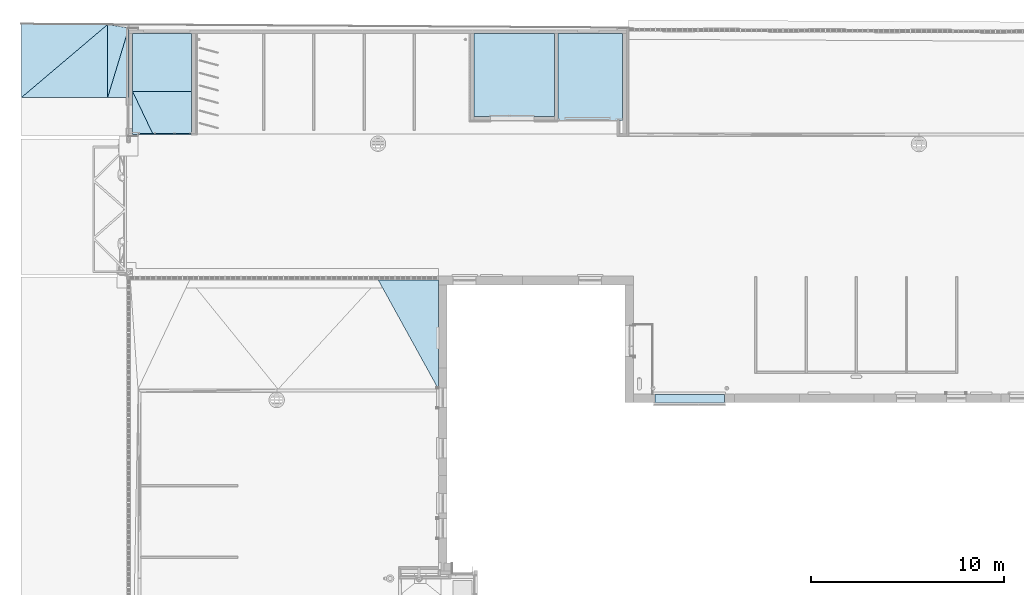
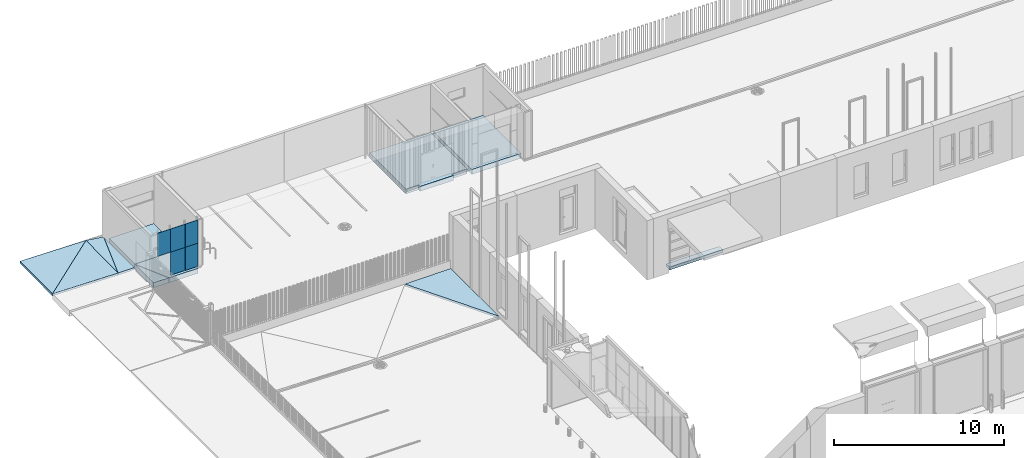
# One storey, part 10 of 77: 11 slabs, 5 plates, 4 elements without a shape of their own.
"""IFC2X3 building model written with IfcOpenShell, lengths in millimetres."""

from ifc_helpers import new_model, entity, si_unit, converted_unit, derived_unit, direction, frame, frame_2d, origin, place, context, subcontext, project, spatial, polyline, rectangle, outline, extrude, clip, halfspace, faceted_brep, source, transform, mapped, material, material_list, layer, layer_set, layer_usage, type_object, type_shapes, element, aggregate, save


model = new_model("IFC2X3")

# Units and contexts
model_context = context("Model", 3, precision=0.01, world=origin(), true_north=direction((6.12303176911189e-17, 1.0)))
body_context = subcontext(model_context, "Body", "Model", "MODEL_VIEW")
ifc_project = project(units=[si_unit("LENGTHUNIT", "METRE", prefix="MILLI"), si_unit("AREAUNIT", "SQUARE_METRE"), si_unit("VOLUMEUNIT", "CUBIC_METRE"), converted_unit("PLANEANGLEUNIT", "DEGREE", entity("IfcRatioMeasure", 0.0174532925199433), si_unit("PLANEANGLEUNIT", "RADIAN"), dimensions=[0, 0, 0, 0, 0, 0, 0]), si_unit("MASSUNIT", "GRAM", prefix="KILO"), derived_unit("MASSDENSITYUNIT", [(si_unit("MASSUNIT", "GRAM", prefix="KILO"), 1), (si_unit("LENGTHUNIT", "METRE"), -3)]), si_unit("TIMEUNIT", "SECOND"), si_unit("FREQUENCYUNIT", "HERTZ"), si_unit("THERMODYNAMICTEMPERATUREUNIT", "DEGREE_CELSIUS"), derived_unit("THERMALTRANSMITTANCEUNIT", [(si_unit("MASSUNIT", "GRAM", prefix="KILO"), 1), (si_unit("THERMODYNAMICTEMPERATUREUNIT", "KELVIN"), -1), (si_unit("TIMEUNIT", "SECOND"), -3)]), derived_unit("VOLUMETRICFLOWRATEUNIT", [(si_unit("LENGTHUNIT", "METRE"), 3), (si_unit("TIMEUNIT", "SECOND"), -1)]), si_unit("ELECTRICCURRENTUNIT", "AMPERE"), si_unit("ELECTRICVOLTAGEUNIT", "VOLT"), si_unit("POWERUNIT", "WATT"), si_unit("FORCEUNIT", "NEWTON", prefix="KILO"), si_unit("ILLUMINANCEUNIT", "LUX"), si_unit("LUMINOUSFLUXUNIT", "LUMEN"), si_unit("LUMINOUSINTENSITYUNIT", "CANDELA"), derived_unit("USERDEFINED", [(si_unit("MASSUNIT", "GRAM", prefix="KILO"), -1), (si_unit("LENGTHUNIT", "METRE"), -2), (si_unit("TIMEUNIT", "SECOND"), 3), (si_unit("LUMINOUSFLUXUNIT", "LUMEN"), 1)]), derived_unit("LINEARVELOCITYUNIT", [(si_unit("LENGTHUNIT", "METRE"), 1), (si_unit("TIMEUNIT", "SECOND"), -1)]), si_unit("PRESSUREUNIT", "PASCAL"), derived_unit("USERDEFINED", [(si_unit("LENGTHUNIT", "METRE"), -2), (si_unit("MASSUNIT", "GRAM", prefix="KILO"), 1), (si_unit("TIMEUNIT", "SECOND"), -2)])], contexts=[model_context])

# Site, building, storey
site_placement = place(None, origin())
site = spatial("IfcSite", under=ifc_project, at=site_placement, Name="Default", CompositionType="ELEMENT")
building_placement = place(site_placement, origin())
building = spatial("IfcBuilding", under=site, at=building_placement, CompositionType="ELEMENT")
storey_placement = place(building_placement, origin())
storey = spatial("IfcBuildingStorey", under=building, at=storey_placement, Name="1. KORRUS", CompositionType="ELEMENT", Elevation=0.0)

# Curtain wall, plates
curtain_wall_type = type_object("IfcCurtainWallType", Name="Curtain Wall:võresein VP1", PredefinedType="NOTDEFINED")
curtain_wall_placement = place(storey_placement, origin())
curtain_wall = element("IfcCurtainWall", 1, at=curtain_wall_placement, inside=storey, type_object=curtain_wall_type, Name="Curtain Wall:võresein VP1", ObjectType="Curtain Wall:võresein VP1")
ifc_material_1 = material(Name="venitatud lehtvõrk R1,5/2,5L, must")
ifc_material_2 = material(Name="teras, võrkpaneeli raam")
ifc_material_list_1 = material_list([ifc_material_1, ifc_material_2])
ifc_material_list_2 = material_list([ifc_material_1, ifc_material_2])
plate_type_1 = type_object("IfcPlateType", Name="võrkpaneel", PredefinedType="CURTAIN_PANEL", material=ifc_material_list_2)
shared_shape_1 = source(origin(), body_context, "Body", "Brep", [
    faceted_brep([(873.0, 8.0, 1655.5), (873.0, 8.0, 2.0), (2.0, 8.0, 2.0), (2.0, 8.0, 1655.5), (873.0, 2.0, 1655.5), (2.0, 2.0, 1655.5), (2.0, 2.0, 2.0), (873.0, 2.0, 2.0)], [[[0, 1, 2, 3]], [[4, 5, 6, 7]], [[3, 5, 4, 0]], [[2, 6, 5, 3]], [[1, 7, 6, 2]], [[0, 4, 7, 1]]]),
    faceted_brep([(30.0, 2.0, 30.0), (30.0, 2.0, 1625.0), (30.0, 0.0, 1625.0), (30.0, 0.0, 30.0), (2.0, 30.0, 2.0), (2.0, 30.0, 1653.0), (2.0, 2.0, 1653.0), (2.0, 2.0, 2.0), (0.0, 0.0, 0.0), (0.0, 0.0, 1655.0), (0.0, 30.0, 1655.0), (0.0, 30.0, 0.0), (845.0, 2.0, 1625.0), (845.0, 0.0, 1625.0), (873.0, 30.0, 1653.0), (873.0, 2.0, 1653.0), (875.0, 0.0, 1655.0), (875.0, 30.0, 1655.0), (845.0, 2.0, 30.0), (845.0, 0.0, 30.0), (873.0, 30.0, 2.0), (873.0, 2.0, 2.0), (875.0, 0.0, 0.0), (875.0, 30.0, 0.0)], [[[0, 1, 2, 3]], [[4, 5, 6, 7]], [[8, 9, 10, 11]], [[1, 12, 13, 2]], [[5, 14, 15, 6]], [[9, 16, 17, 10]], [[12, 18, 19, 13]], [[14, 20, 21, 15]], [[16, 22, 23, 17]], [[18, 0, 3, 19]], [[1, 0, 18, 12], [7, 6, 15, 21]], [[20, 4, 7, 21]], [[5, 4, 20, 14], [11, 10, 17, 23]], [[22, 8, 11, 23]], [[3, 2, 13, 19], [9, 8, 22, 16]]], outer=[[True], [True], [True], [True], [True], [True], [True], [True], [True], [True], [False, True], [True], [False, True], [True], [False, True]]),
])
type_shapes(plate_type_1, [shared_shape_1])
plate_1_placement = place(curtain_wall_placement, frame((-15997.7351867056, 35390.0994344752, 1712.5)))
plate_1 = element("IfcPlate", 2, at=plate_1_placement, type_object=plate_type_1, material=ifc_material_list_1, Name="võrkpaneel:võrkpaneel", ObjectType="võrkpaneel", context=body_context, shape_type="MappedRepresentation", body=[
    mapped(shared_shape_1, transform((0.0, 0.0, 0.0), scale=1.0)),
])
ifc_material_list_3 = material_list([ifc_material_1, ifc_material_2])
ifc_material_list_4 = material_list([ifc_material_1, ifc_material_2])
plate_type_2 = type_object("IfcPlateType", Name="võrkpaneel", PredefinedType="CURTAIN_PANEL", material=ifc_material_list_4)
shared_shape_2 = source(origin(), body_context, "Body", "Brep", [
    faceted_brep([(993.002893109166, 8.0, 1655.5), (993.002893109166, 8.0, 2.0), (2.0, 8.0, 2.0), (2.0, 8.0, 1655.5), (993.002893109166, 2.0, 1655.5), (2.0, 2.0, 1655.5), (2.0, 2.0, 2.0), (993.002893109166, 2.0, 2.0)], [[[0, 1, 2, 3]], [[4, 5, 6, 7]], [[3, 5, 4, 0]], [[2, 6, 5, 3]], [[1, 7, 6, 2]], [[0, 4, 7, 1]]]),
    faceted_brep([(30.0, 2.0, 30.0), (30.0, 2.0, 1625.0), (30.0, 0.0, 1625.0), (30.0, 0.0, 30.0), (2.0, 30.0, 2.0), (2.0, 30.0, 1653.0), (2.0, 2.0, 1653.0), (2.0, 2.0, 2.0), (0.0, 0.0, 0.0), (0.0, 0.0, 1655.0), (0.0, 30.0, 1655.0), (0.0, 30.0, 0.0), (965.002893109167, 2.0, 1625.0), (965.002893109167, 0.0, 1625.0), (993.002893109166, 30.0, 1653.0), (993.002893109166, 2.0, 1653.0), (995.002893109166, 0.0, 1655.0), (995.002893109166, 30.0, 1655.0), (965.002893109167, 2.0, 30.0), (965.002893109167, 0.0, 30.0), (993.002893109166, 30.0, 2.0), (993.002893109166, 2.0, 2.0), (995.002893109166, 0.0, 0.0), (995.002893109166, 30.0, 0.0)], [[[0, 1, 2, 3]], [[4, 5, 6, 7]], [[8, 9, 10, 11]], [[1, 12, 13, 2]], [[5, 14, 15, 6]], [[9, 16, 17, 10]], [[12, 18, 19, 13]], [[14, 20, 21, 15]], [[16, 22, 23, 17]], [[18, 0, 3, 19]], [[1, 0, 18, 12], [7, 6, 15, 21]], [[20, 4, 7, 21]], [[5, 4, 20, 14], [11, 10, 17, 23]], [[22, 8, 11, 23]], [[3, 2, 13, 19], [9, 8, 22, 16]]], outer=[[True], [True], [True], [True], [True], [True], [True], [True], [True], [True], [False, True], [True], [False, True], [True], [False, True]]),
])
type_shapes(plate_type_2, [shared_shape_2])
plate_2_placement = place(curtain_wall_placement, frame((-15117.7351867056, 35390.0994344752, 52.5)))
plate_2 = element("IfcPlate", 3, at=plate_2_placement, type_object=plate_type_2, material=ifc_material_list_3, Name="võrkpaneel:võrkpaneel", ObjectType="võrkpaneel", context=body_context, shape_type="MappedRepresentation", body=[
    mapped(shared_shape_2, transform((0.0, 0.0, 0.0), scale=1.0)),
])
ifc_material_list_5 = material_list([ifc_material_1, ifc_material_2])
plate_3_placement = place(curtain_wall_placement, frame((-15117.7351867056, 35390.0994344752, 1712.5)))
plate_3 = element("IfcPlate", 4, at=plate_3_placement, type_object=plate_type_2, material=ifc_material_list_5, Name="võrkpaneel:võrkpaneel", ObjectType="võrkpaneel", context=body_context, shape_type="MappedRepresentation", body=[
    mapped(shared_shape_2, transform((0.0, 0.0, 0.0), scale=1.0)),
])
ifc_material_list_6 = material_list([ifc_material_1, ifc_material_2])
ifc_material_list_7 = material_list([ifc_material_1, ifc_material_2])
plate_type_3 = type_object("IfcPlateType", Name="võrkpaneel", PredefinedType="CURTAIN_PANEL", material=ifc_material_list_7)
shared_shape_3 = source(origin(), body_context, "Body", "Brep", [
    faceted_brep([(872.99793333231, 8.0, 1655.5), (872.99793333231, 8.0, 2.0), (2.0, 8.0, 2.0), (2.0, 8.0, 1655.5), (872.99793333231, 2.0, 1655.5), (2.0, 2.0, 1655.5), (2.0, 2.0, 2.0), (872.99793333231, 2.0, 2.0)], [[[0, 1, 2, 3]], [[4, 5, 6, 7]], [[3, 5, 4, 0]], [[2, 6, 5, 3]], [[1, 7, 6, 2]], [[0, 4, 7, 1]]]),
    faceted_brep([(30.0, 2.0, 30.0), (30.0, 2.0, 1625.0), (30.0, 0.0, 1625.0), (30.0, 0.0, 30.0), (2.0, 30.0, 2.0), (2.0, 30.0, 1653.0), (2.0, 2.0, 1653.0), (2.0, 2.0, 2.0), (0.0, 0.0, 0.0), (0.0, 0.0, 1655.0), (0.0, 30.0, 1655.0), (0.0, 30.0, 0.0), (844.99793333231, 2.0, 1625.0), (844.99793333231, 0.0, 1625.0), (872.99793333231, 30.0, 1653.0), (872.99793333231, 2.0, 1653.0), (874.99793333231, 0.0, 1655.0), (874.99793333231, 30.0, 1655.0), (844.99793333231, 2.0, 30.0), (844.99793333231, 0.0, 30.0), (872.99793333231, 30.0, 2.0), (872.99793333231, 2.0, 2.0), (874.99793333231, 0.0, 0.0), (874.99793333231, 30.0, 0.0)], [[[0, 1, 2, 3]], [[4, 5, 6, 7]], [[8, 9, 10, 11]], [[1, 12, 13, 2]], [[5, 14, 15, 6]], [[9, 16, 17, 10]], [[12, 18, 19, 13]], [[14, 20, 21, 15]], [[16, 22, 23, 17]], [[18, 0, 3, 19]], [[1, 0, 18, 12], [7, 6, 15, 21]], [[20, 4, 7, 21]], [[5, 4, 20, 14], [11, 10, 17, 23]], [[22, 8, 11, 23]], [[3, 2, 13, 19], [9, 8, 22, 16]]], outer=[[True], [True], [True], [True], [True], [True], [True], [True], [True], [True], [False, True], [True], [False, True], [True], [False, True]]),
])
type_shapes(plate_type_3, [shared_shape_3])
plate_4_placement = place(curtain_wall_placement, frame((-14117.7322935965, 35390.0994344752, 52.5)))
plate_4 = element("IfcPlate", 5, at=plate_4_placement, type_object=plate_type_3, material=ifc_material_list_6, Name="võrkpaneel:võrkpaneel", ObjectType="võrkpaneel", context=body_context, shape_type="MappedRepresentation", body=[
    mapped(shared_shape_3, transform((0.0, 0.0, 0.0), scale=1.0)),
])
ifc_material_list_8 = material_list([ifc_material_1, ifc_material_2])
plate_5_placement = place(curtain_wall_placement, frame((-14117.7322935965, 35390.0994344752, 1712.5)))
plate_5 = element("IfcPlate", 6, at=plate_5_placement, type_object=plate_type_3, material=ifc_material_list_8, Name="võrkpaneel:võrkpaneel", ObjectType="võrkpaneel", context=body_context, shape_type="MappedRepresentation", body=[
    mapped(shared_shape_3, transform((0.0, 0.0, 0.0), scale=1.0)),
])
aggregate(curtain_wall, [plate_2, plate_4, plate_1, plate_3, plate_5])

# Slabs
slab_1_placement = place(storey_placement, frame((-16275.2351867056, 35387.5994344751, -450.0)))
slab_1 = element("IfcSlab", 7, at=slab_1_placement, inside=storey, Name="Floor:PP-10_rb150", ObjectType="Floor:PP-10_rb150", PredefinedType="NOTDEFINED")
slab_2_placement = place(slab_1_placement, origin())
slab_2 = element("IfcSlab", 8, at=slab_2_placement, Name="Floor:PP-10_rb150", ObjectType="Floor:PP-10_rb150", PredefinedType="NOTDEFINED", context=body_context, shape_type="SweptSolid", body=[
    extrude(rectangle(XDim=3000.14999625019, YDim=3035.00082644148, at=frame_2d((0.0, 2.1600499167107e-12), x_axis=(0.0, -1.0))), frame((1517.50041322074, 3712.49999999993, 385.0), z_axis=(0.0, -0.00999950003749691, 0.999950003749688), x_axis=(1.0, 0.0, 0.0)), (0.0, -0.00999950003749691, -0.999950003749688), 350.0),
])
slab_3_placement = place(slab_1_placement, origin())
slab_3 = element("IfcSlab", 9, at=slab_3_placement, Name="Floor:PP-10_rb150", ObjectType="Floor:PP-10_rb150", PredefinedType="NOTDEFINED", context=body_context, shape_type="SweptSolid", body=[
    extrude(outline(polyline([(-527.59477821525, -1106.24999999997), (527.594778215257, -1106.24999999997), (-527.594778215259, 1106.24999999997), (-527.59477821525, -1106.24999999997)])), frame((527.500000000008, 1106.24999999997, 360.0), z_axis=(0.0189539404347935, 0.0, 0.999820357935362), x_axis=(0.999820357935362, 0.0, -0.0189539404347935)), (0.0189539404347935, 0.0, -0.999820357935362), 350.0),
])
slab_4_placement = place(slab_1_placement, origin())
slab_4 = element("IfcSlab", 10, at=slab_4_placement, Name="Floor:PP-10_rb150", ObjectType="Floor:PP-10_rb150", PredefinedType="NOTDEFINED", context=body_context, shape_type="SweptSolid", body=[
    extrude(outline(polyline([(1517.50041322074, -1106.2951968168), (1517.50041322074, 1106.2951968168), (-1517.50041322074, 1106.2951968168), (-462.500413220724, -1106.2951968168), (1517.50041322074, -1106.2951968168)])), frame((1517.50041322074, 1106.24999999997, 360.0), z_axis=(0.0, -0.00903917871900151, 0.99995914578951), x_axis=(1.0, 0.0, 0.0)), (0.0, -0.00903917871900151, -0.99995914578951), 350.0),
])
aggregate(slab_1, [slab_2, slab_3, slab_4])

ifc_material_3 = material(Name="r/b")
ifc_layer_1 = layer(ifc_material_3, 150.0)
ifc_material_4 = material(Name="killustik")
ifc_layer_2 = layer(ifc_material_4, 200.0)
ifc_layer_set_1 = layer_set([ifc_layer_1, ifc_layer_2], Name="Floor:PP-10_rb150")
ifc_layer_usage_1 = layer_usage(ifc_layer_set_1, "AXIS3", "POSITIVE", 0.0)
slab_5_placement = place(storey_placement, origin())
element("IfcSlab", 11, at=slab_5_placement, inside=storey, material=ifc_layer_usage_1, Name="Floor:PP-10_rb150", ObjectType="Floor:PP-10_rb150", PredefinedType="FLOOR", context=body_context, shape_type="SweptSolid", body=[
    extrude(outline(polyline([(-1025.02485861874, -2032.50000001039), (3265.07457585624, -2032.50000001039), (3265.07457585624, 2127.50000001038), (-1025.02485861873, 2127.50000001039), (-1025.02485861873, 1077.5), (-1215.02485861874, 1077.5), (-1215.02485861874, -1172.5), (-1025.02485861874, -1172.5), (-1025.02485861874, -2032.50000001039)])), frame((3422.26481328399, 37335.0248586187, -100.0), z_axis=(0.0, 0.0, -1.0), x_axis=(0.0, 1.0, 0.0)), (0.0, 0.0, 1.0), 350.0),
])
ifc_layer_3 = layer(ifc_material_3, 200.0)
ifc_layer_set_2 = layer_set([ifc_layer_3], Name="Floor:PP-1 serv")
ifc_layer_usage_2 = layer_usage(ifc_layer_set_2, "AXIS3", "POSITIVE", 0.0)
slab_6_placement = place(storey_placement, origin())
element("IfcSlab", 12, at=slab_6_placement, inside=storey, material=ifc_layer_usage_2, Name="Floor:PP-1 serv", ObjectType="Floor:PP-1 serv", PredefinedType="FLOOR", context=body_context, shape_type="Clipping", body=[
    clip(clip(extrude(rectangle(XDim=430.464865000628, YDim=3599.99999999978, at=frame_2d((0.0, 1.02318153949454e-12), x_axis=(1.0, 0.0))), frame((12550.0, 21715.0517807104, -10.0), z_axis=(0.0, -0.046461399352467, -0.998920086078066), x_axis=(0.0, 0.998920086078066, -0.046461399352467)), (0.046461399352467, 0.0, 0.998920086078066), 200.216216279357), halfspace(frame((10750.0, 21500.0517807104, -200.0), z_axis=(0.0, 0.0, -1.0), x_axis=(-1.0, 0.0, 0.0)), False)), halfspace(frame((12550.0, 21715.0517807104, -10.0), z_axis=(0.0, 0.046461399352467, 0.998920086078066), x_axis=(0.0, -0.998920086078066, 0.046461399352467)), False)),
])
ifc_layer_usage_3 = layer_usage(ifc_layer_set_1, "AXIS3", "POSITIVE", 0.0)
slab_7_placement = place(storey_placement, origin())
element("IfcSlab", 13, at=slab_7_placement, inside=storey, material=ifc_layer_usage_3, Name="Floor:PP-10_rb150", ObjectType="Floor:PP-10_rb150", PredefinedType="FLOOR", context=body_context, shape_type="SweptSolid", body=[
    extrude(rectangle(XDim=4500.09943447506, YDim=3344.95937112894, at=frame_2d((0.0, 5.6843418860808e-13), x_axis=(1.0, 0.0))), frame((7412.2444988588, 38350.0497172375, -100.0), z_axis=(0.0, 0.0, -1.0), x_axis=(0.0, 1.0, 0.0)), (0.0, 0.0, 1.0), 350.0),
])

slab_8_placement = place(storey_placement, frame((-22032.2669129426, 37300.0, -240.0)))
slab_8 = element("IfcSlab", 14, at=slab_8_placement, inside=storey, Name="Floor:Muru", ObjectType="Floor:Muru", PredefinedType="NOTDEFINED")
slab_9_placement = place(slab_8_placement, origin())
slab_9 = element("IfcSlab", 15, at=slab_9_placement, Name="Floor:Muru", ObjectType="Floor:Muru", PredefinedType="NOTDEFINED", context=body_context, shape_type="SweptSolid", body=[
    extrude(outline(polyline([(46.5346321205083, 1952.92220724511), (-1049.85307068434, -1647.38554974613), (46.5346321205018, -1647.30222160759), (46.5346321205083, 1952.92220724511)])), frame((5510.49902963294, 1647.24856637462, 173.302256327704), z_axis=(-0.00912054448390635, -0.00833246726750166, 0.999923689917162), x_axis=(0.999958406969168, -7.59997994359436e-05, 0.00912022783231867)), (-0.00912022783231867, -0.00833281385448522, -0.999923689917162), 150.0),
])
slab_10_placement = place(slab_8_placement, origin())
slab_10 = element("IfcSlab", 16, at=slab_10_placement, Name="Floor:Muru", ObjectType="Floor:Muru", PredefinedType="NOTDEFINED", context=body_context, shape_type="SweptSolid", body=[
    extrude(outline(polyline([(848.179829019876, 1751.26251424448), (-248.312990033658, 1929.94043305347), (-248.312990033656, -1849.01323042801), (848.179829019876, 1751.26251424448)])), frame((4708.96848371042, 1848.83833697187, 175.761980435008), z_axis=(0.0165798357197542, -0.0161569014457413, 0.999731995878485), x_axis=(0.999862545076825, 0.000267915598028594, -0.0165776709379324)), (0.0165776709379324, -0.0161591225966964, -0.999731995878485), 150.0),
])
slab_11_placement = place(slab_8_placement, origin())
slab_11 = element("IfcSlab", 17, at=slab_11_placement, Name="Floor:Muru", ObjectType="Floor:Muru", PredefinedType="NOTDEFINED", context=body_context, shape_type="SweptSolid", body=[
    extrude(outline(polyline([(-2230.47727178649, 1904.41993898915), (-2230.4772717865, -1904.41993898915), (2230.4772717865, 1873.73811032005), (-2230.47727178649, 1904.41993898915)])), frame((2230.34481275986, 1904.57019648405, 215.69339629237), z_axis=(0.0108980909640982, -0.0105012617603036, 0.999885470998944), x_axis=(0.999940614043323, 0.000114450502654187, -0.0108974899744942)), (0.0108974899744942, -0.0105018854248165, -0.999885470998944), 150.0),
])
slab_12_placement = place(slab_8_placement, origin())
slab_12 = element("IfcSlab", 18, at=slab_12_placement, Name="Floor:Muru", ObjectType="Floor:Muru", PredefinedType="NOTDEFINED", context=body_context, shape_type="SweptSolid", body=[
    extrude(outline(polyline([(-2231.09841859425, -1888.91114098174), (2230.14027214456, -1890.04227956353), (2230.14027214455, 1888.91138391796), (-2231.09841859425, -1888.91114098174)])), frame((2230.82382702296, 1889.23012814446, 215.524770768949), z_axis=(0.0156886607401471, -0.0161571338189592, 0.999746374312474), x_axis=(0.99987692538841, 0.000253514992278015, -0.0156866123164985)), (0.0156866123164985, -0.0161591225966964, -0.999746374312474), 150.0),
])
aggregate(slab_8, [slab_9, slab_10, slab_11, slab_12])

slab_13_placement = place(storey_placement, frame((-16400.0, -350.0, -300.0)))
slab_13 = element("IfcSlab", 19, at=slab_13_placement, inside=storey, Name="Floor:Muru", ObjectType="Floor:Muru", PredefinedType="NOTDEFINED")
slab_14_placement = place(slab_13_placement, origin())
slab_14 = element("IfcSlab", 20, at=slab_14_placement, Name="Floor:Muru", ObjectType="Floor:Muru", PredefinedType="NOTDEFINED", context=body_context, shape_type="SweptSolid", body=[
    extrude(outline(polyline([(1556.6706351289, -2825.0), (1556.6706351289, 2825.0), (-1556.6706351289, 2825.0), (1556.6706351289, -2825.0)])), frame((14393.4016361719, 25375.0, 265.0), z_axis=(-0.00963594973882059, 0.0, 0.99995357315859), x_axis=(0.99995357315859, 0.0, 0.00963594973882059)), (-0.00963594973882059, 0.0, -0.99995357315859), 150.0),
])
aggregate(slab_13, [slab_14])

save(model, "model.ifc")
